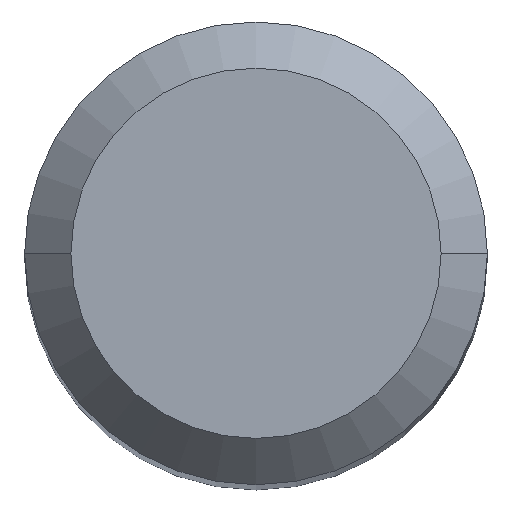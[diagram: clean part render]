
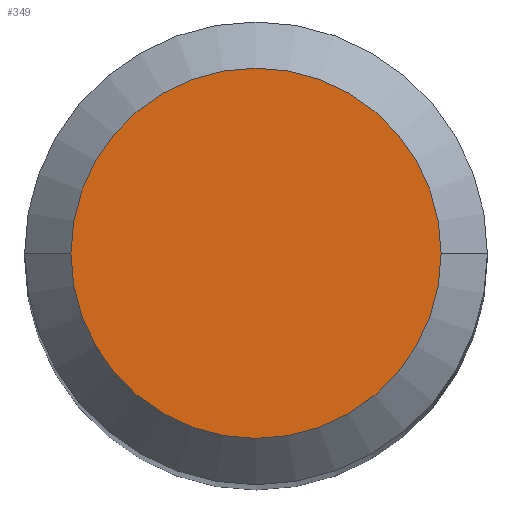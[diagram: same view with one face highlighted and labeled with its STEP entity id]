
A CAD part, top view. The second image highlights one B-rep face of the part: STEP entity #349.
In plain terms, the highlighted planar face has unit normal (0, 0, 1).
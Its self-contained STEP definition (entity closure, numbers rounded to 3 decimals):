
#20 = AXIS2_PLACEMENT_3D ( 'NONE', #470, #563, #62 ) ;
#31 = AXIS2_PLACEMENT_3D ( 'NONE', #94, #373, #570 ) ;
#62 = DIRECTION ( 'NONE',  ( 1., 0., 0. ) ) ;
#68 = EDGE_CURVE ( 'NONE', #310, #264, #322, .T. ) ;
#94 = CARTESIAN_POINT ( 'NONE',  ( 0., 0., 0. ) ) ;
#107 = ORIENTED_EDGE ( 'NONE', *, *, #68, .F. ) ;
#264 = VERTEX_POINT ( 'NONE', #297 ) ;
#297 = CARTESIAN_POINT ( 'NONE',  ( -2.4, 0., 0. ) ) ;
#310 = VERTEX_POINT ( 'NONE', #382 ) ;
#313 = DIRECTION ( 'NONE',  ( -1., 0., 0. ) ) ;
#317 = CARTESIAN_POINT ( 'NONE',  ( 0., 0., 0. ) ) ;
#322 = CIRCLE ( 'NONE', #393, 2.4 ) ;
#349 = ADVANCED_FACE ( 'NONE', ( #377 ), #386, .T. ) ;
#373 = DIRECTION ( 'NONE',  ( 0., 0., -1. ) ) ;
#374 = CIRCLE ( 'NONE', #31, 2.4 ) ;
#377 = FACE_OUTER_BOUND ( 'NONE', #578, .T. ) ;
#382 = CARTESIAN_POINT ( 'NONE',  ( 2.4, 0., 0. ) ) ;
#386 = PLANE ( 'NONE',  #20 ) ;
#393 = AXIS2_PLACEMENT_3D ( 'NONE', #317, #450, #313 ) ;
#408 = EDGE_CURVE ( 'NONE', #264, #310, #374, .T. ) ;
#450 = DIRECTION ( 'NONE',  ( 0., 0., -1. ) ) ;
#470 = CARTESIAN_POINT ( 'NONE',  ( 0., 2.4, 0. ) ) ;
#471 = ORIENTED_EDGE ( 'NONE', *, *, #408, .F. ) ;
#563 = DIRECTION ( 'NONE',  ( 0., 0., 1. ) ) ;
#570 = DIRECTION ( 'NONE',  ( -1., 0., 0. ) ) ;
#578 = EDGE_LOOP ( 'NONE', ( #471, #107 ) ) ;
